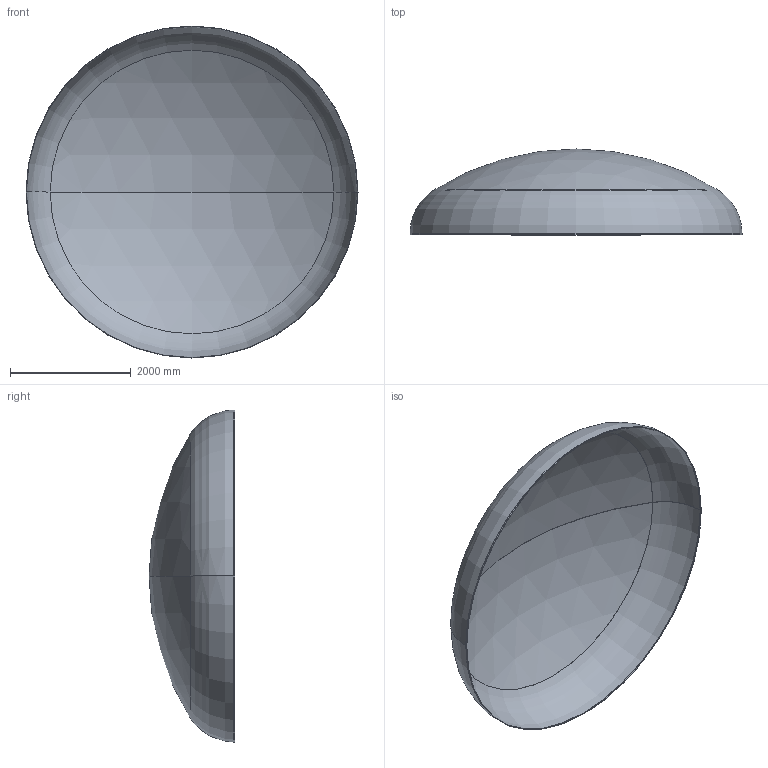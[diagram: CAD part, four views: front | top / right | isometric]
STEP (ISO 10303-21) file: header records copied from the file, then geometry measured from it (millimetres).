
FILE_DESCRIPTION (( 'STEP AP203' ), '1' );
FILE_NAME ('DIN 28013 Korbbogenform_-_Boden DIN 28013 - 5500 x 20 - I - s=6.step', '2016-07-04T10:33:30', ( '' ), ( '' ), 'SwSTEP 2.0', 'SolidWorks 2013', '' );
FILE_SCHEMA (( 'CONFIG_CONTROL_DESIGN' ));
Length unit declared in the file: millimetre
Products named in the file (1): DIN 28013 Korbbogenform_-_Boden DIN 28013 - 5500 x 20 - I - s=6
Bounding box: 5500 x 1420.7 x 5500 mm (x, y, z)
Volume: 199148158.6 mm3; surface area: 66486326.6 mm2
Topology: 1 solids, 1 shells, 13 faces, 24 edges, 14 vertices
Faces by surface type: torus 4, cylinder 4, sphere 4, plane 1
Entity records: 407 total; most frequent: DIRECTION 72, CARTESIAN_POINT 52, ORIENTED_EDGE 48, AXIS2_PLACEMENT_3D 34, EDGE_CURVE 24, CIRCLE 20, EDGE_LOOP 14, VERTEX_POINT 14
